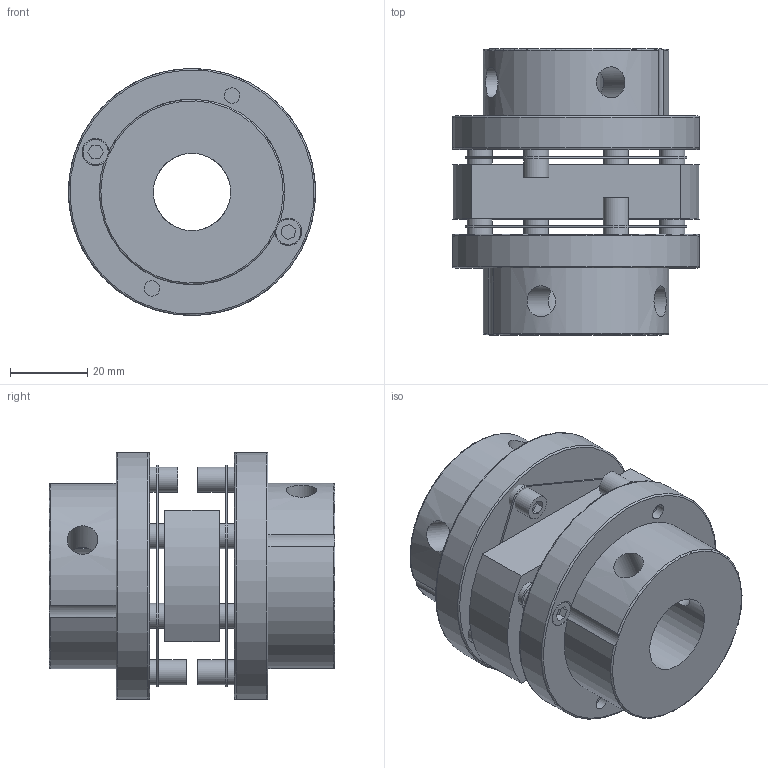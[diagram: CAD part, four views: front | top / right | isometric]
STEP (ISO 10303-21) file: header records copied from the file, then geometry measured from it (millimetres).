
FILE_DESCRIPTION(/* description */ (''),/* implementation_level */ '2;1');
FILE_NAME(/* name */ 'SDWA-64_asm',/* time_stamp */ '2002-11-02T22:45:07+09:00',/* author */ (''),/* organization */ (''),/* preprocessor_version */ 'ST-DEVELOPER v8',/* originating_system */ 'UNIGRAPHICS SOLUTIONS - UNIGRAPHICS 18.0',/* authorisation */ '');
FILE_SCHEMA (('CONFIG_CONTROL_DESIGN'));
Length unit declared in the file: inch
Products named in the file (6): SDWA-64_05_par; SDWA-64_04_par; SDWA-64_03_par; SDWA-64_01_par; SDWA-64_02_par; SDWA-64_asm
Assembly tree (13 placements, depth 2):
  SDWA-64_asm
    SDWA-64_02_par
    SDWA-64_01_par  x2
    SDWA-64_03_par  x4
    SDWA-64_04_par  x4
    SDWA-64_05_par  x2
Bounding box: 63.94 x 74 x 63.94 mm (x, y, z)
Volume: 126455.6 mm3; surface area: 43082.5 mm2
Topology: 13 solids, 13 shells, 171 faces, 411 edges, 278 vertices
Faces by surface type: plane 102, cylinder 61, torus 8
Full cylindrical faces by diameter (mm): 4 x24, 6.5 x8, 7 x4, 8 x4, 20 x5, 64 x2
Entity records: 2922 total; most frequent: CARTESIAN_POINT 415, DIRECTION 350, ORIENTED_EDGE 268, AXIS2_PLACEMENT_3D 143, EDGE_CURVE 134, EDGE_LOOP 128, VERTEX_POINT 104, FACE_BOUND 85
